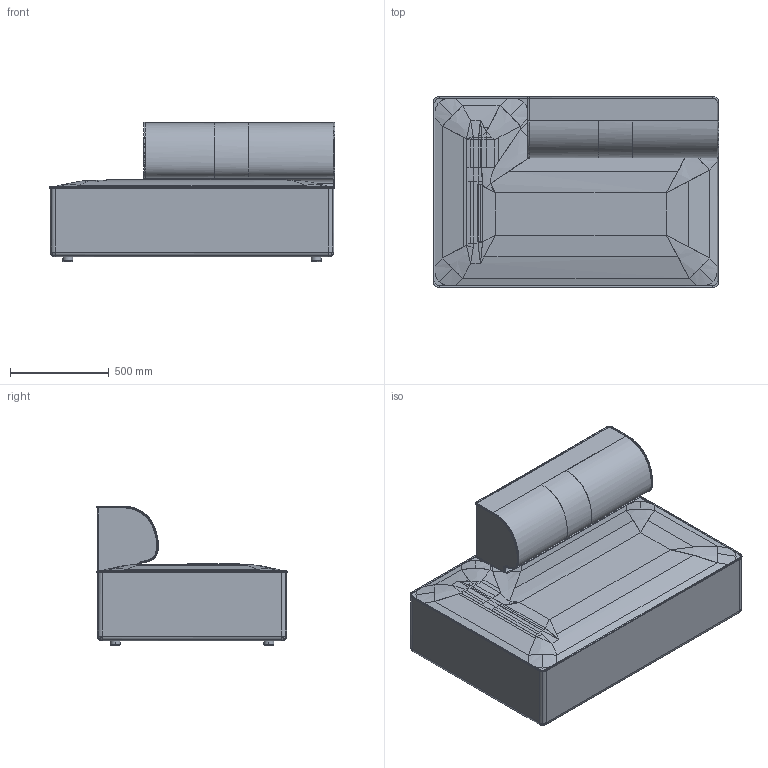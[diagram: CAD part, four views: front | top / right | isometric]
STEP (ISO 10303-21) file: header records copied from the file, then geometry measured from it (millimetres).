
FILE_DESCRIPTION(/* description */ (''),/* implementation_level */ '2;1');
FILE_NAME(/* name */ 'Eave 96 Open End Left',/* time_stamp */ '2023-09-27T11:30:27+02:00',/* author */ (''),/* organization */ (''),/* preprocessor_version */ 'ST-DEVELOPER v16.5',/* originating_system */ 'Rhino 7.31',/* authorisation */ '');
FILE_SCHEMA (('AUTOMOTIVE_DESIGN'));
Length unit declared in the file: millimetre
Products named in the file (1): Document
Bounding box: 1448 x 968 x 709 mm (x, y, z)
Surface area: 5405656.2 mm2 (no closed solid volume)
Topology: 0 solids, 205 shells, 205 faces, 799 edges, 791 vertices
Faces by surface type: cylinder 95, bspline 76, plane 34
Entity records: 13038 total; most frequent: CARTESIAN_POINT 7000, ORIENTED_EDGE 791, EDGE_CURVE 791, VERTEX_POINT 791, B_SPLINE_CURVE_WITH_KNOTS 377, EDGE_LOOP 217, PRESENTATION_LAYER_ASSIGNMENT 205, SHELL_BASED_SURFACE_MODEL 205
